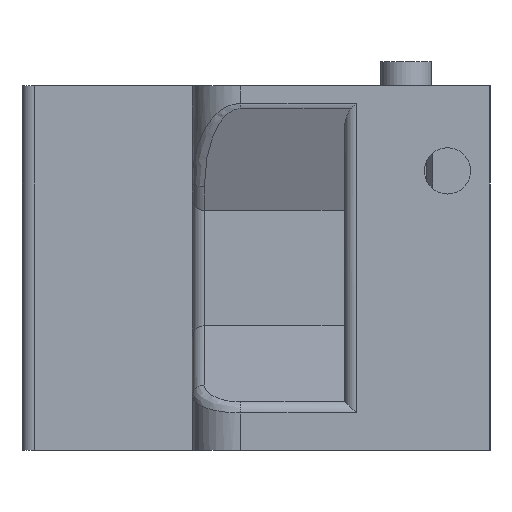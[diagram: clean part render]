
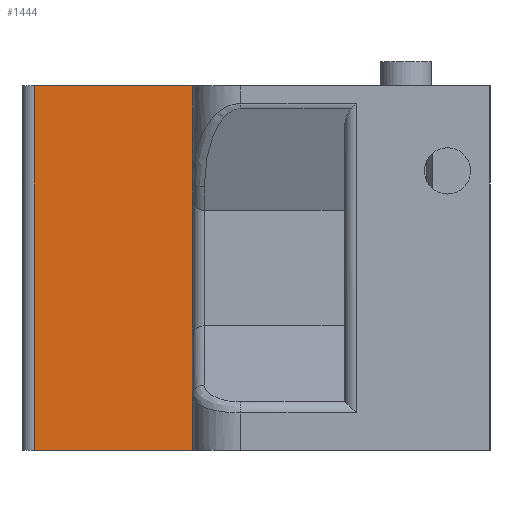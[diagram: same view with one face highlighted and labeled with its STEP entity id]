
A CAD part, left-side view. The second image highlights one B-rep face of the part: STEP entity #1444.
In plain terms, the highlighted planar face has unit normal (-1, 0, 0).
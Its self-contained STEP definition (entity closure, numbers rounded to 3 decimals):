
#62=LINE('',#2219,#162);
#90=LINE('',#2365,#190);
#121=LINE('',#2510,#221);
#122=LINE('',#2513,#222);
#162=VECTOR('',#1768,13.);
#190=VECTOR('',#1862,30.);
#221=VECTOR('',#1961,30.);
#222=VECTOR('',#1966,13.);
#262=PLANE('',#1601);
#401=FACE_OUTER_BOUND('',#511,.T.);
#511=EDGE_LOOP('',(#1199,#1200,#1201,#1202));
#691=VERTEX_POINT('',#2216);
#692=VERTEX_POINT('',#2218);
#722=VERTEX_POINT('',#2363);
#752=VERTEX_POINT('',#2509);
#829=EDGE_CURVE('',#692,#691,#62,.T.);
#876=EDGE_CURVE('',#722,#691,#90,.T.);
#925=EDGE_CURVE('',#692,#752,#121,.T.);
#927=EDGE_CURVE('',#722,#752,#122,.T.);
#1199=ORIENTED_EDGE('',*,*,#925,.F.);
#1200=ORIENTED_EDGE('',*,*,#829,.T.);
#1201=ORIENTED_EDGE('',*,*,#876,.F.);
#1202=ORIENTED_EDGE('',*,*,#927,.T.);
#1444=ADVANCED_FACE('',(#401),#262,.T.);
#1601=AXIS2_PLACEMENT_3D('',#2512,#1964,#1965);
#1768=DIRECTION('',(0.,-1.,0.));
#1862=DIRECTION('',(0.,0.,-1.));
#1961=DIRECTION('',(0.,0.,1.));
#1964=DIRECTION('center_axis',(-1.,0.,0.));
#1965=DIRECTION('ref_axis',(0.,0.,1.));
#1966=DIRECTION('',(0.,1.,0.));
#2216=CARTESIAN_POINT('',(-32.5,24.5,-15.));
#2218=CARTESIAN_POINT('',(-32.5,37.5,-15.));
#2219=CARTESIAN_POINT('',(-32.5,24.5,-15.));
#2363=CARTESIAN_POINT('',(-32.5,24.5,15.));
#2365=CARTESIAN_POINT('',(-32.5,24.5,0.));
#2509=CARTESIAN_POINT('',(-32.5,37.5,15.));
#2510=CARTESIAN_POINT('',(-32.5,37.5,0.));
#2512=CARTESIAN_POINT('Origin',(-32.5,24.5,0.));
#2513=CARTESIAN_POINT('',(-32.5,24.5,15.));
